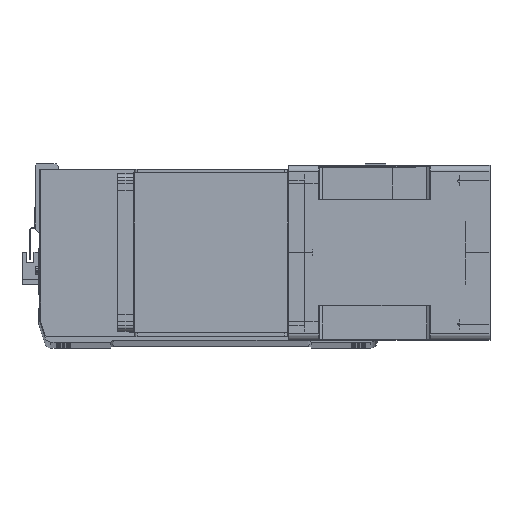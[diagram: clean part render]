
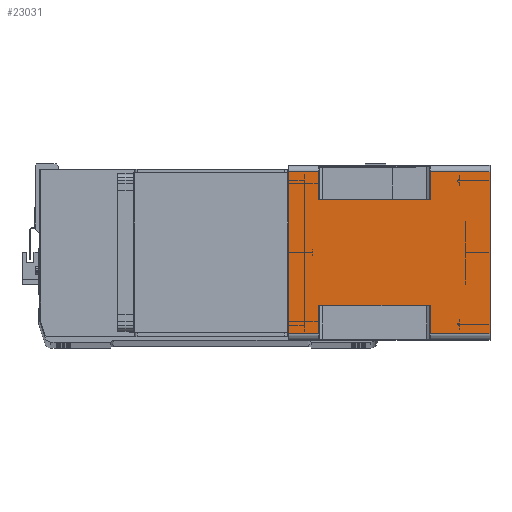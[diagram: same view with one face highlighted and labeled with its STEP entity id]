
A CAD part, top view. The second image highlights one B-rep face of the part: STEP entity #23031.
In plain terms, the highlighted planar face has unit normal (0, 0, 1) as drawn and (1, 0, 0) by its records, which use the part's own axes.
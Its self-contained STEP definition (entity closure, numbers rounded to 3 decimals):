
#70 = CARTESIAN_POINT ( 'NONE',  ( 71., -43., -115.5 ) ) ;
#101 = EDGE_LOOP ( 'NONE', ( #2166, #30599, #7912, #12620, #24712, #12134, #23983, #20890, #20365, #13951, #33681, #14839 ) ) ;
#192 = LINE ( 'NONE', #22825, #1457 ) ;
#282 = VERTEX_POINT ( 'NONE', #70 ) ;
#1457 = VECTOR ( 'NONE', #20413, 1000. ) ;
#1523 = EDGE_CURVE ( 'NONE', #282, #13553, #34547, .T. ) ;
#2166 = ORIENTED_EDGE ( 'NONE', *, *, #1523, .F. ) ;
#2372 = CARTESIAN_POINT ( 'NONE',  ( 71., 66., -24.5 ) ) ;
#2854 = CARTESIAN_POINT ( 'NONE',  ( 71., -66., -164. ) ) ;
#3078 = VECTOR ( 'NONE', #23927, 1000. ) ;
#3215 = EDGE_CURVE ( 'NONE', #282, #31794, #13151, .T. ) ;
#3719 = CARTESIAN_POINT ( 'NONE',  ( 71., -66., -164. ) ) ;
#4048 = EDGE_CURVE ( 'NONE', #17927, #25273, #29286, .T. ) ;
#4255 = LINE ( 'NONE', #26214, #15456 ) ;
#4660 = EDGE_CURVE ( 'NONE', #20366, #16545, #5146, .T. ) ;
#5146 = LINE ( 'NONE', #18963, #31731 ) ;
#5365 = CARTESIAN_POINT ( 'NONE',  ( 71., -66., -24.5 ) ) ;
#5982 = EDGE_CURVE ( 'NONE', #25204, #20366, #15027, .T. ) ;
#7323 = LINE ( 'NONE', #26664, #7774 ) ;
#7401 = DIRECTION ( 'NONE',  ( 1., 0., 0. ) ) ;
#7697 = LINE ( 'NONE', #24381, #27992 ) ;
#7774 = VECTOR ( 'NONE', #10673, 1000. ) ;
#7912 = ORIENTED_EDGE ( 'NONE', *, *, #15566, .F. ) ;
#9370 = VECTOR ( 'NONE', #26790, 1000. ) ;
#9400 = PLANE ( 'NONE',  #12319 ) ;
#9950 = EDGE_CURVE ( 'NONE', #17927, #16398, #12929, .T. ) ;
#10269 = DIRECTION ( 'NONE',  ( 0., 0., 1. ) ) ;
#10342 = DIRECTION ( 'NONE',  ( 0., -1., 0. ) ) ;
#10673 = DIRECTION ( 'NONE',  ( 0., 0., 1. ) ) ;
#12034 = CARTESIAN_POINT ( 'NONE',  ( 71., -66., -24.5 ) ) ;
#12093 = FACE_OUTER_BOUND ( 'NONE', #101, .T. ) ;
#12134 = ORIENTED_EDGE ( 'NONE', *, *, #22698, .T. ) ;
#12265 = EDGE_CURVE ( 'NONE', #26499, #32631, #24342, .T. ) ;
#12319 = AXIS2_PLACEMENT_3D ( 'NONE', #25829, #7401, #15166 ) ;
#12620 = ORIENTED_EDGE ( 'NONE', *, *, #12265, .T. ) ;
#12929 = LINE ( 'NONE', #5365, #24518 ) ;
#13151 = LINE ( 'NONE', #30667, #22221 ) ;
#13286 = VECTOR ( 'NONE', #10269, 1000. ) ;
#13553 = VERTEX_POINT ( 'NONE', #31616 ) ;
#13951 = ORIENTED_EDGE ( 'NONE', *, *, #4660, .F. ) ;
#14839 = ORIENTED_EDGE ( 'NONE', *, *, #28466, .T. ) ;
#15027 = LINE ( 'NONE', #26917, #28699 ) ;
#15166 = DIRECTION ( 'NONE',  ( 0., 1., 0. ) ) ;
#15456 = VECTOR ( 'NONE', #10342, 1000. ) ;
#15566 = EDGE_CURVE ( 'NONE', #26499, #31794, #16785, .T. ) ;
#16387 = CARTESIAN_POINT ( 'NONE',  ( 71., 66., -115.5 ) ) ;
#16398 = VERTEX_POINT ( 'NONE', #2372 ) ;
#16545 = VERTEX_POINT ( 'NONE', #25172 ) ;
#16785 = LINE ( 'NONE', #2854, #3078 ) ;
#17927 = VERTEX_POINT ( 'NONE', #31023 ) ;
#18963 = CARTESIAN_POINT ( 'NONE',  ( 71., -66., 0. ) ) ;
#19810 = DIRECTION ( 'NONE',  ( 0., 1., 0. ) ) ;
#20200 = CARTESIAN_POINT ( 'NONE',  ( 71., -43., -164. ) ) ;
#20366 = VERTEX_POINT ( 'NONE', #25683 ) ;
#20365 = ORIENTED_EDGE ( 'NONE', *, *, #21711, .T. ) ;
#20413 = DIRECTION ( 'NONE',  ( 0., 1., 0. ) ) ;
#20890 = ORIENTED_EDGE ( 'NONE', *, *, #9950, .T. ) ;
#21590 = DIRECTION ( 'NONE',  ( 0., 1., 0. ) ) ;
#21711 = EDGE_CURVE ( 'NONE', #16398, #16545, #7697, .T. ) ;
#22145 = CARTESIAN_POINT ( 'NONE',  ( 71., -66., -164. ) ) ;
#22221 = VECTOR ( 'NONE', #30915, 1000. ) ;
#22698 = EDGE_CURVE ( 'NONE', #31998, #25273, #4255, .T. ) ;
#22825 = CARTESIAN_POINT ( 'NONE',  ( 71., -43., -24.5 ) ) ;
#23031 = ADVANCED_FACE ( 'NONE', ( #12093 ), #9400, .T. ) ;
#23292 = CARTESIAN_POINT ( 'NONE',  ( 71., 43., -115.5 ) ) ;
#23927 = DIRECTION ( 'NONE',  ( 0., 0., 1. ) ) ;
#23983 = ORIENTED_EDGE ( 'NONE', *, *, #4048, .F. ) ;
#24342 = LINE ( 'NONE', #3719, #29768 ) ;
#24381 = CARTESIAN_POINT ( 'NONE',  ( 71., 66., -164. ) ) ;
#24518 = VECTOR ( 'NONE', #32062, 1000. ) ;
#24575 = DIRECTION ( 'NONE',  ( 0., 0., 1. ) ) ;
#24712 = ORIENTED_EDGE ( 'NONE', *, *, #24912, .T. ) ;
#24912 = EDGE_CURVE ( 'NONE', #32631, #31998, #7323, .T. ) ;
#25172 = CARTESIAN_POINT ( 'NONE',  ( 71., 66., 0. ) ) ;
#25204 = VERTEX_POINT ( 'NONE', #12034 ) ;
#25273 = VERTEX_POINT ( 'NONE', #23292 ) ;
#25683 = CARTESIAN_POINT ( 'NONE',  ( 71., -66., 0. ) ) ;
#25829 = CARTESIAN_POINT ( 'NONE',  ( 71., -66., -164. ) ) ;
#26214 = CARTESIAN_POINT ( 'NONE',  ( 71., 43., -115.5 ) ) ;
#26434 = CARTESIAN_POINT ( 'NONE',  ( 71., 43., -164. ) ) ;
#26499 = VERTEX_POINT ( 'NONE', #22145 ) ;
#26664 = CARTESIAN_POINT ( 'NONE',  ( 71., 66., -164. ) ) ;
#26790 = DIRECTION ( 'NONE',  ( 0., 0., -1. ) ) ;
#26917 = CARTESIAN_POINT ( 'NONE',  ( 71., -66., -164. ) ) ;
#27409 = DIRECTION ( 'NONE',  ( 0., 0., 1. ) ) ;
#27992 = VECTOR ( 'NONE', #27409, 1000. ) ;
#28466 = EDGE_CURVE ( 'NONE', #25204, #13553, #192, .T. ) ;
#28699 = VECTOR ( 'NONE', #24575, 1000. ) ;
#29286 = LINE ( 'NONE', #26434, #9370 ) ;
#29768 = VECTOR ( 'NONE', #19810, 1000. ) ;
#30599 = ORIENTED_EDGE ( 'NONE', *, *, #3215, .T. ) ;
#30667 = CARTESIAN_POINT ( 'NONE',  ( 71., -66., -115.5 ) ) ;
#30915 = DIRECTION ( 'NONE',  ( 0., -1., 0. ) ) ;
#31023 = CARTESIAN_POINT ( 'NONE',  ( 71., 43., -24.5 ) ) ;
#31597 = CARTESIAN_POINT ( 'NONE',  ( 71., -66., -115.5 ) ) ;
#31616 = CARTESIAN_POINT ( 'NONE',  ( 71., -43., -24.5 ) ) ;
#31731 = VECTOR ( 'NONE', #21590, 1000. ) ;
#31794 = VERTEX_POINT ( 'NONE', #31597 ) ;
#31998 = VERTEX_POINT ( 'NONE', #16387 ) ;
#32042 = CARTESIAN_POINT ( 'NONE',  ( 71., 66., -164. ) ) ;
#32062 = DIRECTION ( 'NONE',  ( 0., 1., 0. ) ) ;
#32631 = VERTEX_POINT ( 'NONE', #32042 ) ;
#33681 = ORIENTED_EDGE ( 'NONE', *, *, #5982, .F. ) ;
#34547 = LINE ( 'NONE', #20200, #13286 ) ;
